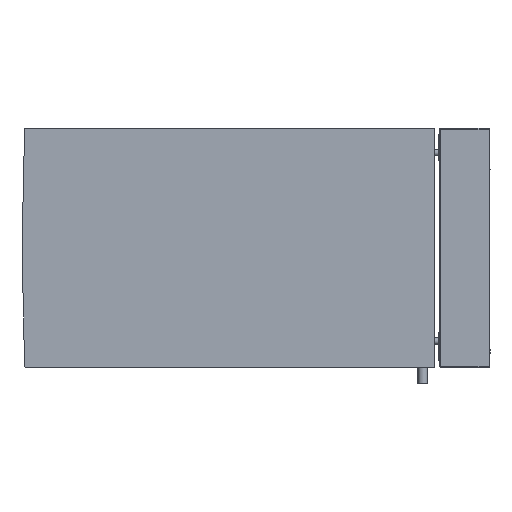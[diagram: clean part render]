
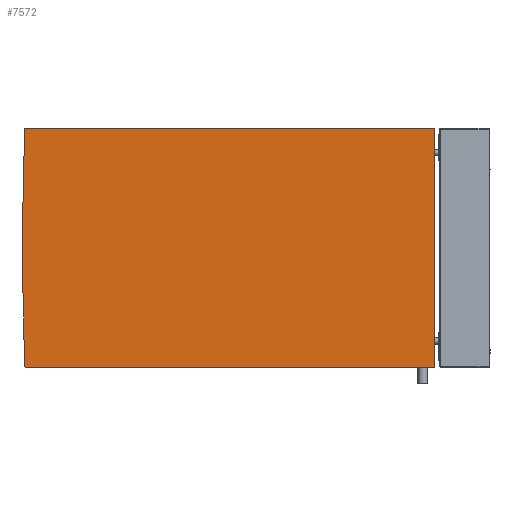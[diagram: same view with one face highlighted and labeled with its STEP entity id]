
A CAD part, left-side view. The second image highlights one B-rep face of the part: STEP entity #7572.
In plain terms, the highlighted planar face has unit normal (-1, 0, 0).
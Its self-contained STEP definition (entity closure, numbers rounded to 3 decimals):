
#77 = ORIENTED_EDGE ( 'NONE', *, *, #36746, .F. ) ;
#590 = VERTEX_POINT ( 'NONE', #7960 ) ;
#615 = ORIENTED_EDGE ( 'NONE', *, *, #31566, .F. ) ;
#769 = VECTOR ( 'NONE', #27717, 1000. ) ;
#1061 = EDGE_CURVE ( 'NONE', #34639, #590, #28575, .T. ) ;
#1116 = CARTESIAN_POINT ( 'NONE',  ( -575., 1222.101, 357.478 ) ) ;
#1388 = EDGE_CURVE ( 'NONE', #6457, #10419, #27159, .T. ) ;
#1463 = VERTEX_POINT ( 'NONE', #1116 ) ;
#1506 = EDGE_CURVE ( 'NONE', #590, #27963, #16316, .T. ) ;
#1520 = ORIENTED_EDGE ( 'NONE', *, *, #1388, .F. ) ;
#1792 = ORIENTED_EDGE ( 'NONE', *, *, #1061, .F. ) ;
#2489 = VERTEX_POINT ( 'NONE', #9832 ) ;
#3570 = ORIENTED_EDGE ( 'NONE', *, *, #27953, .F. ) ;
#4657 = EDGE_CURVE ( 'NONE', #27963, #2489, #33677, .T. ) ;
#5043 = CARTESIAN_POINT ( 'NONE',  ( -575., 1232.738, 0. ) ) ;
#5691 = CARTESIAN_POINT ( 'NONE',  ( -575., 0., 0. ) ) ;
#6012 = EDGE_CURVE ( 'NONE', #36812, #34639, #22499, .T. ) ;
#6160 = AXIS2_PLACEMENT_3D ( 'NONE', #6899, #29608, #23973 ) ;
#6457 = VERTEX_POINT ( 'NONE', #23016 ) ;
#6885 = ORIENTED_EDGE ( 'NONE', *, *, #13888, .F. ) ;
#6899 = CARTESIAN_POINT ( 'NONE',  ( -575., 2., 355.5 ) ) ;
#7227 = CARTESIAN_POINT ( 'NONE',  ( -575., 2., 357.5 ) ) ;
#7477 = LINE ( 'NONE', #5043, #24961 ) ;
#7572 = ADVANCED_FACE ( 'NONE', ( #17830 ), #20422, .T. ) ;
#7960 = CARTESIAN_POINT ( 'NONE',  ( -575., 2., -357.5 ) ) ;
#8675 = DIRECTION ( 'NONE',  ( 0., 0., 1. ) ) ;
#8985 = ORIENTED_EDGE ( 'NONE', *, *, #1506, .F. ) ;
#9832 = CARTESIAN_POINT ( 'NONE',  ( -575., 1225., -354.642 ) ) ;
#9914 = AXIS2_PLACEMENT_3D ( 'NONE', #20120, #17012, #8675 ) ;
#10419 = VERTEX_POINT ( 'NONE', #14768 ) ;
#10482 = DIRECTION ( 'NONE',  ( 0., 0., -1. ) ) ;
#11154 = DIRECTION ( 'NONE',  ( 1., 0., 0. ) ) ;
#13602 = CARTESIAN_POINT ( 'NONE',  ( -575., 2., -355.5 ) ) ;
#13838 = DIRECTION ( 'NONE',  ( 0., 0., 1. ) ) ;
#13888 = EDGE_CURVE ( 'NONE', #2489, #6457, #7477, .T. ) ;
#14276 = AXIS2_PLACEMENT_3D ( 'NONE', #16719, #11154, #27755 ) ;
#14768 = CARTESIAN_POINT ( 'NONE',  ( -575., 1225., 354.642 ) ) ;
#15542 = VECTOR ( 'NONE', #26413, 1000. ) ;
#16316 = LINE ( 'NONE', #24873, #769 ) ;
#16374 = DIRECTION ( 'NONE',  ( 0., 0.022, 1. ) ) ;
#16719 = CARTESIAN_POINT ( 'NONE',  ( -575., 1222.101, 354.578 ) ) ;
#17012 = DIRECTION ( 'NONE',  ( 1., 0., 0. ) ) ;
#17702 = CARTESIAN_POINT ( 'NONE',  ( -575., 0., -355.5 ) ) ;
#17830 = FACE_OUTER_BOUND ( 'NONE', #32303, .T. ) ;
#18913 = LINE ( 'NONE', #32556, #31846 ) ;
#19563 = ORIENTED_EDGE ( 'NONE', *, *, #6012, .F. ) ;
#19621 = CIRCLE ( 'NONE', #14276, 2.9 ) ;
#20120 = CARTESIAN_POINT ( 'NONE',  ( -575., 1222.101, -354.578 ) ) ;
#20422 = PLANE ( 'NONE',  #25758 ) ;
#22061 = CARTESIAN_POINT ( 'NONE',  ( -575., 1222.101, -357.478 ) ) ;
#22318 = DIRECTION ( 'NONE',  ( 0., 0., 1. ) ) ;
#22499 = LINE ( 'NONE', #27613, #33389 ) ;
#23016 = CARTESIAN_POINT ( 'NONE',  ( -575., 1232.738, 0. ) ) ;
#23973 = DIRECTION ( 'NONE',  ( 0., 0., 1. ) ) ;
#24873 = CARTESIAN_POINT ( 'NONE',  ( -575., 1222.101, -357.478 ) ) ;
#24955 = DIRECTION ( 'NONE',  ( 1., 0., 0. ) ) ;
#24961 = VECTOR ( 'NONE', #16374, 1000. ) ;
#25758 = AXIS2_PLACEMENT_3D ( 'NONE', #5691, #28025, #13838 ) ;
#26413 = DIRECTION ( 'NONE',  ( 0., -0.022, 1. ) ) ;
#27159 = LINE ( 'NONE', #32367, #15542 ) ;
#27613 = CARTESIAN_POINT ( 'NONE',  ( -575., 0., -355.5 ) ) ;
#27717 = DIRECTION ( 'NONE',  ( 0., 1., 0. ) ) ;
#27755 = DIRECTION ( 'NONE',  ( 0., 0., 1. ) ) ;
#27953 = EDGE_CURVE ( 'NONE', #10419, #1463, #19621, .T. ) ;
#27963 = VERTEX_POINT ( 'NONE', #22061 ) ;
#28025 = DIRECTION ( 'NONE',  ( -1., 0., 0. ) ) ;
#28575 = CIRCLE ( 'NONE', #33894, 2. ) ;
#29608 = DIRECTION ( 'NONE',  ( 1., 0., 0. ) ) ;
#30319 = DIRECTION ( 'NONE',  ( 0., -1., 0. ) ) ;
#31566 = EDGE_CURVE ( 'NONE', #36630, #36812, #36491, .T. ) ;
#31846 = VECTOR ( 'NONE', #30319, 1000. ) ;
#32303 = EDGE_LOOP ( 'NONE', ( #615, #77, #3570, #1520, #6885, #32336, #8985, #1792, #19563 ) ) ;
#32336 = ORIENTED_EDGE ( 'NONE', *, *, #4657, .F. ) ;
#32367 = CARTESIAN_POINT ( 'NONE',  ( -575., 1225., 354.642 ) ) ;
#32556 = CARTESIAN_POINT ( 'NONE',  ( -575., 1222.101, 357.478 ) ) ;
#33389 = VECTOR ( 'NONE', #10482, 1000. ) ;
#33677 = CIRCLE ( 'NONE', #9914, 2.9 ) ;
#33894 = AXIS2_PLACEMENT_3D ( 'NONE', #13602, #24955, #22318 ) ;
#34639 = VERTEX_POINT ( 'NONE', #17702 ) ;
#36491 = CIRCLE ( 'NONE', #6160, 2. ) ;
#36630 = VERTEX_POINT ( 'NONE', #7227 ) ;
#36746 = EDGE_CURVE ( 'NONE', #1463, #36630, #18913, .T. ) ;
#36812 = VERTEX_POINT ( 'NONE', #36825 ) ;
#36825 = CARTESIAN_POINT ( 'NONE',  ( -575., 0., 355.5 ) ) ;
